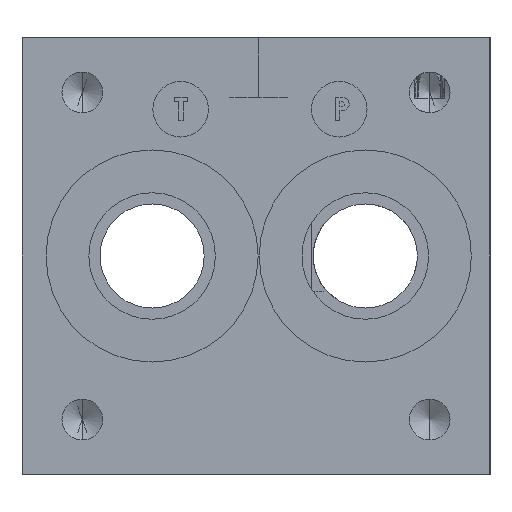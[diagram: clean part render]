
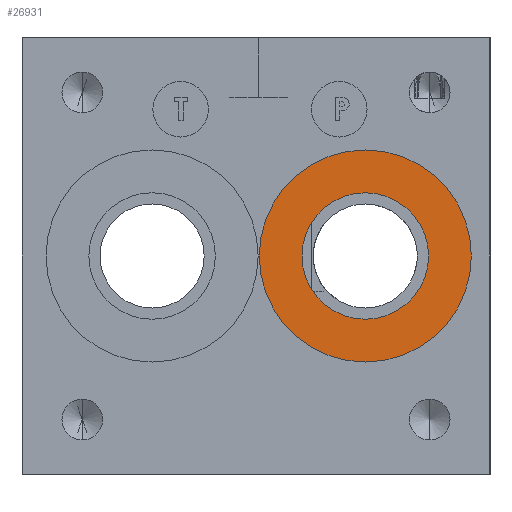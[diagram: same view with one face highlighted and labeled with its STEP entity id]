
A CAD part, left-side view. The second image highlights one B-rep face of the part: STEP entity #26931.
In plain terms, the highlighted planar face has unit normal (-1, 0, 0).
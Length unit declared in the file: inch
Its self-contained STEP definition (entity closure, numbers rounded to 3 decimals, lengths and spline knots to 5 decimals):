
#188 = CARTESIAN_POINT ( 'NONE',  ( 0.031, 0.786, 1.375 ) ) ;
#294 = DIRECTION ( 'NONE',  ( 0., 0., 1. ) ) ;
#2090 = FACE_OUTER_BOUND ( 'NONE', #14378, .T. ) ;
#4325 = CIRCLE ( 'NONE', #7756, 0.39885 ) ;
#4652 = CARTESIAN_POINT ( 'NONE',  ( 0.031, 0.786, 0.97615 ) ) ;
#6146 = PLANE ( 'NONE',  #26017 ) ;
#6265 = CIRCLE ( 'NONE', #35955, 0.6684 ) ;
#7756 = AXIS2_PLACEMENT_3D ( 'NONE', #34569, #17540, #294 ) ;
#8121 = CARTESIAN_POINT ( 'NONE',  ( 0.031, 0.786, 1.375 ) ) ;
#8443 = DIRECTION ( 'NONE',  ( -1., 0., 0. ) ) ;
#9027 = DIRECTION ( 'NONE',  ( 1., 0., 0. ) ) ;
#10958 = DIRECTION ( 'NONE',  ( 0., 0., 1. ) ) ;
#11063 = AXIS2_PLACEMENT_3D ( 'NONE', #28071, #11095, #30916 ) ;
#11095 = DIRECTION ( 'NONE',  ( -1., 0., 0. ) ) ;
#12329 = ORIENTED_EDGE ( 'NONE', *, *, #35008, .F. ) ;
#13519 = VERTEX_POINT ( 'NONE', #23445 ) ;
#13558 = CIRCLE ( 'NONE', #32563, 0.6684 ) ;
#13881 = CARTESIAN_POINT ( 'NONE',  ( 0.031, 0.786, 0.7066 ) ) ;
#14378 = EDGE_LOOP ( 'NONE', ( #25754, #28428 ) ) ;
#15565 = EDGE_CURVE ( 'NONE', #20522, #13519, #4325, .T. ) ;
#16281 = CARTESIAN_POINT ( 'NONE',  ( 0.031, 0.786, 2.0434 ) ) ;
#17540 = DIRECTION ( 'NONE',  ( -1., 0., 0. ) ) ;
#19147 = EDGE_CURVE ( 'NONE', #36152, #29242, #13558, .T. ) ;
#20522 = VERTEX_POINT ( 'NONE', #4652 ) ;
#23445 = CARTESIAN_POINT ( 'NONE',  ( 0.031, 0.786, 1.77385 ) ) ;
#24998 = EDGE_LOOP ( 'NONE', ( #12329, #29624 ) ) ;
#25383 = CARTESIAN_POINT ( 'NONE',  ( 0.031, 0.786, 1.375 ) ) ;
#25754 = ORIENTED_EDGE ( 'NONE', *, *, #35491, .T. ) ;
#25764 = FACE_BOUND ( 'NONE', #24998, .T. ) ;
#26017 = AXIS2_PLACEMENT_3D ( 'NONE', #188, #9027, #28827 ) ;
#26931 = ADVANCED_FACE ( 'NONE', ( #25764, #2090 ), #6146, .F. ) ;
#27899 = DIRECTION ( 'NONE',  ( -1., 0., 0. ) ) ;
#28071 = CARTESIAN_POINT ( 'NONE',  ( 0.031, 0.786, 1.375 ) ) ;
#28241 = DIRECTION ( 'NONE',  ( 0., 0., 1. ) ) ;
#28428 = ORIENTED_EDGE ( 'NONE', *, *, #19147, .T. ) ;
#28827 = DIRECTION ( 'NONE',  ( 0., 0., -1. ) ) ;
#29242 = VERTEX_POINT ( 'NONE', #16281 ) ;
#29624 = ORIENTED_EDGE ( 'NONE', *, *, #15565, .F. ) ;
#30916 = DIRECTION ( 'NONE',  ( 0., 0., 1. ) ) ;
#32563 = AXIS2_PLACEMENT_3D ( 'NONE', #25383, #8443, #28241 ) ;
#34569 = CARTESIAN_POINT ( 'NONE',  ( 0.031, 0.786, 1.375 ) ) ;
#35008 = EDGE_CURVE ( 'NONE', #13519, #20522, #37001, .T. ) ;
#35491 = EDGE_CURVE ( 'NONE', #29242, #36152, #6265, .T. ) ;
#35955 = AXIS2_PLACEMENT_3D ( 'NONE', #8121, #27899, #10958 ) ;
#36152 = VERTEX_POINT ( 'NONE', #13881 ) ;
#37001 = CIRCLE ( 'NONE', #11063, 0.39885 ) ;
